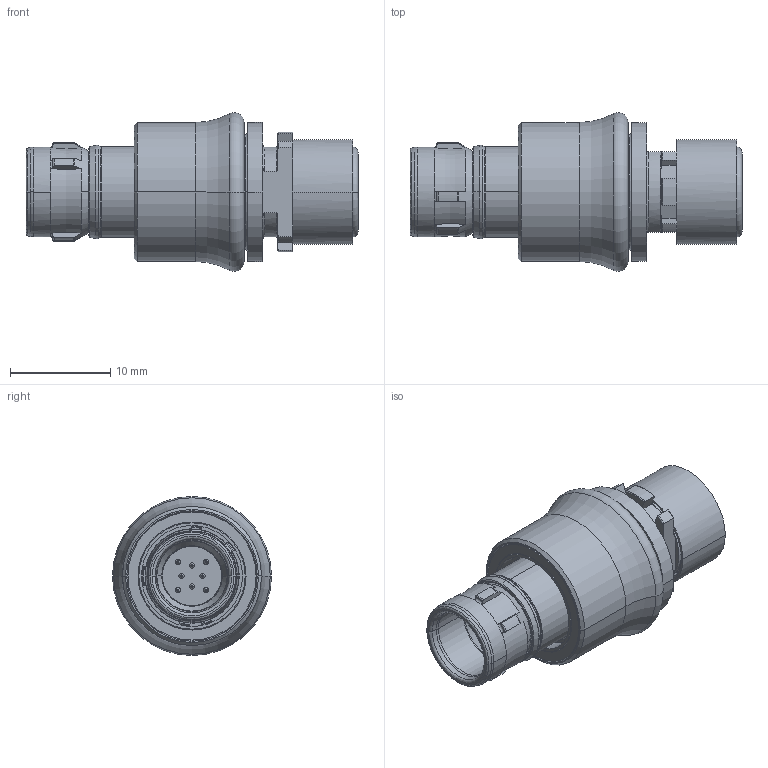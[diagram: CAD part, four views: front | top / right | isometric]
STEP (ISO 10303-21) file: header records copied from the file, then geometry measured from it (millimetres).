
FILE_DESCRIPTION((''),'2;1');
FILE_NAME('00050868-A','2020-10-27T12:13:46',('EUnterhaslberger'),(''),'CREO PARAMETRIC BY PTC INC, 2018300','CREO PARAMETRIC BY PTC INC, 2018300','');
FILE_SCHEMA(('AP242_MANAGED_MODEL_BASED_3D_ENGINEERING_MIM_LF { 1 0 10303 442 1 1 4 }'));
Length unit declared in the file: millimetre
Products named in the file (1): 00050868-A
Bounding box: 33.2 x 15.9 x 15.9 mm (x, y, z)
Volume: 2418 mm3; surface area: 4667.1 mm2
Topology: 1 solids, 1 shells, 644 faces, 1788 edges, 1143 vertices
Faces by surface type: cylinder 203, plane 170, torus 131, cone 108, bspline 16, sphere 16
Entity records: 26874 total; most frequent: CARTESIAN_POINT 5628, DIRECTION 3640, ORIENTED_EDGE 3512, EDGE_CURVE 1756, AXIS2_PLACEMENT_3D 1547, VERTEX_POINT 1143, CIRCLE 919, EDGE_LOOP 703
